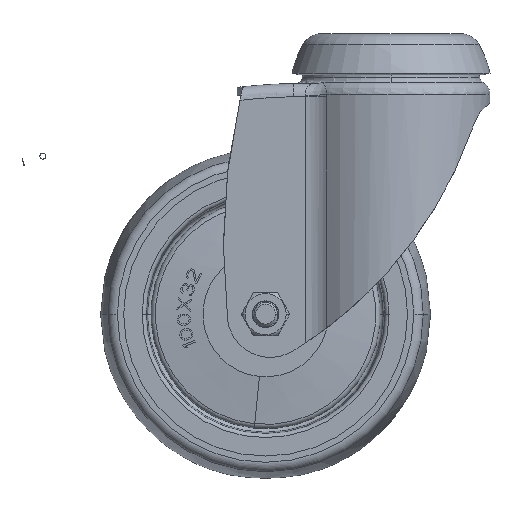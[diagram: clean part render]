
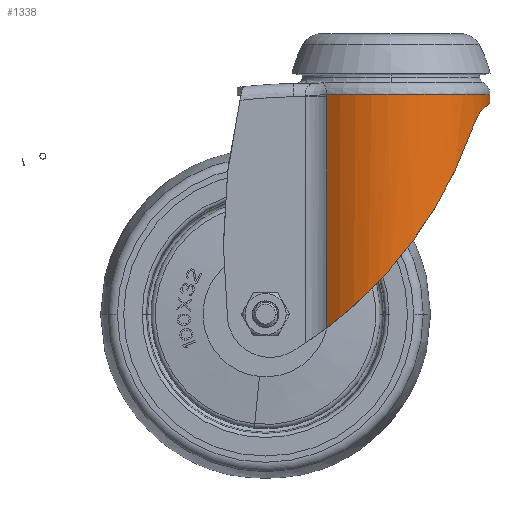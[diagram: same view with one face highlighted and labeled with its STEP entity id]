
A CAD part, left-side view. The second image highlights one B-rep face of the part: STEP entity #1338.
In plain terms, the highlighted cylindrical face has radius 30 mm (diameter 60 mm), a partial arc.
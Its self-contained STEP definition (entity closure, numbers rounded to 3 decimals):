
#1=CARTESIAN_POINT('',(-30.,-0.003,-62.485));
#2=CARTESIAN_POINT('',(-30.,-0.872,-61.489));
#3=CARTESIAN_POINT('',(-29.925,-2.58,-59.475));
#4=CARTESIAN_POINT('',(-29.605,-5.054,-56.368));
#5=CARTESIAN_POINT('',(-29.107,-7.387,-53.248));
#6=CARTESIAN_POINT('',(-28.464,-9.565,-50.149));
#7=CARTESIAN_POINT('',(-27.666,-11.675,-46.954));
#8=CARTESIAN_POINT('',(-26.67,-13.809,-43.505));
#9=CARTESIAN_POINT('',(-25.41,-16.022,-39.655));
#10=CARTESIAN_POINT('',(-23.788,-18.361,-35.223));
#11=CARTESIAN_POINT('',(-21.749,-20.749,-30.212));
#12=CARTESIAN_POINT('',(-19.282,-23.071,-24.723));
#13=CARTESIAN_POINT('',(-17.36,-24.498,-20.848));
#14=CARTESIAN_POINT('',(-16.314,-25.177,-18.858));
#16=CARTESIAN_POINT('',(-22.875,19.41,-80.578));
#17=CARTESIAN_POINT('',(-23.84,18.272,-79.717));
#18=CARTESIAN_POINT('',(-25.579,15.88,-77.847));
#19=CARTESIAN_POINT('',(-27.601,12.012,-74.585));
#20=CARTESIAN_POINT('',(-29.005,8.032,-70.942));
#21=CARTESIAN_POINT('',(-29.827,3.983,-66.904));
#22=CARTESIAN_POINT('',(-30.,1.317,-63.994));
#23=CARTESIAN_POINT('',(-30.,-0.003,
-62.485));
#25=DIRECTION('',(0.,0.,-1.));
#26=VECTOR('',#25,69.978);
#27=CARTESIAN_POINT('',(-22.875,19.41,-10.6));
#28=LINE('',#27,#26);
#29=CARTESIAN_POINT('',(-22.861,19.426,-9.869));
#30=CARTESIAN_POINT('',(-22.865,19.421,-9.991));
#31=CARTESIAN_POINT('',(-22.873,19.412,-10.234));
#32=CARTESIAN_POINT('',(-22.875,19.41,-10.478));
#33=CARTESIAN_POINT('',(-22.875,19.41,-10.6));
#35=CARTESIAN_POINT('',(0.,0.,-9.869));
#36=DIRECTION('',(0.,0.,1.));
#37=DIRECTION('',(-0.762,0.648,0.));
#38=AXIS2_PLACEMENT_3D('',#35,#36,#37);
#40=CARTESIAN_POINT('',(22.875,19.41,-10.6));
#41=CARTESIAN_POINT('',(22.875,19.41,-10.478));
#42=CARTESIAN_POINT('',(22.873,19.412,-10.234));
#43=CARTESIAN_POINT('',(22.865,19.421,-9.991));
#44=CARTESIAN_POINT('',(22.861,19.426,-9.869));
#46=DIRECTION('',(0.,0.,1.));
#47=VECTOR('',#46,69.978);
#48=CARTESIAN_POINT('',(22.875,19.41,-80.578));
#49=LINE('',#48,#47);
#50=CARTESIAN_POINT('',(30.,-0.002,-62.485));
#51=CARTESIAN_POINT('',(30.,1.319,-63.997));
#52=CARTESIAN_POINT('',(29.826,3.99,-66.911));
#53=CARTESIAN_POINT('',(29.003,8.037,-70.947));
#54=CARTESIAN_POINT('',(27.601,12.013,-74.585));
#55=CARTESIAN_POINT('',(25.581,15.877,-77.845));
#56=CARTESIAN_POINT('',(23.841,18.271,-79.716));
#57=CARTESIAN_POINT('',(22.875,19.41,-80.578));
#59=CARTESIAN_POINT('',(16.314,-25.177,-18.858));
#60=CARTESIAN_POINT('',(17.363,-24.497,-20.852));
#61=CARTESIAN_POINT('',(19.288,-23.066,-24.736));
#62=CARTESIAN_POINT('',(21.762,-20.737,-30.24));
#63=CARTESIAN_POINT('',(23.805,-18.34,-35.266));
#64=CARTESIAN_POINT('',(25.429,-15.993,-39.708));
#65=CARTESIAN_POINT('',(26.688,-13.774,-43.564));
#66=CARTESIAN_POINT('',(27.683,-11.637,-47.015));
#67=CARTESIAN_POINT('',(28.476,-9.528,-50.204));
#68=CARTESIAN_POINT('',(29.115,-7.356,-53.29));
#69=CARTESIAN_POINT('',(29.608,-5.033,-56.395));
#70=CARTESIAN_POINT('',(29.925,-2.569,-59.488));
#71=CARTESIAN_POINT('',(30.,-0.869,-61.494));
#72=CARTESIAN_POINT('',(30.,-0.002,-62.485));
#74=CARTESIAN_POINT('',(-16.314,-25.177,-18.858));
#75=CARTESIAN_POINT('',(-16.027,-25.362,-18.312));
#76=CARTESIAN_POINT('',(-15.352,-25.787,-17.303));
#77=CARTESIAN_POINT('',(-13.978,-26.562,-15.966));
#78=CARTESIAN_POINT('',(-12.411,-27.332,-14.934));
#79=CARTESIAN_POINT('',(-10.793,-28.008,-14.179));
#80=CARTESIAN_POINT('',(-9.157,-28.59,-13.611));
#81=CARTESIAN_POINT('',(-7.091,-29.18,-13.104));
#82=CARTESIAN_POINT('',(-4.812,-29.643,-12.751));
#83=CARTESIAN_POINT('',(-2.458,-29.931,-12.546));
#84=CARTESIAN_POINT('',(-0.046,-30.033,
-12.48));
#85=CARTESIAN_POINT('',(2.388,-29.938,-12.542));
#86=CARTESIAN_POINT('',(4.786,-29.648,-12.747));
#87=CARTESIAN_POINT('',(7.104,-29.178,-13.106));
#88=CARTESIAN_POINT('',(9.194,-28.578,-13.622));
#89=CARTESIAN_POINT('',(10.826,-27.995,-14.192));
#90=CARTESIAN_POINT('',(12.43,-27.323,-14.945));
#91=CARTESIAN_POINT('',(13.986,-26.558,-15.973));
#92=CARTESIAN_POINT('',(15.355,-25.785,-17.307));
#93=CARTESIAN_POINT('',(16.028,-25.362,-18.314));
#94=CARTESIAN_POINT('',(16.314,-25.177,-18.858));
#579=CARTESIAN_POINT('',(22.875,19.41,-80.578));
#591=CARTESIAN_POINT('',(22.861,19.426,-9.869));
#1138=CARTESIAN_POINT('',(-22.875,19.41,-80.578));
#1167=VERTEX_POINT('',#591);
#1170=VERTEX_POINT('',#40);
#1173=VERTEX_POINT('',#29);
#1174=VERTEX_POINT('',#33);
#1253=VERTEX_POINT('',#579);
#1254=VERTEX_POINT('',#1138);
#1303=VERTEX_POINT('',#1);
#1304=VERTEX_POINT('',#14);
#1305=VERTEX_POINT('',#94);
#1306=VERTEX_POINT('',#72);
#1311=CARTESIAN_POINT('',(0.,0.,6.88));
#1312=DIRECTION('',(0.,0.,-1.));
#1313=DIRECTION('',(1.,0.,0.));
#1314=AXIS2_PLACEMENT_3D('',#1311,#1312,#1313);
#1315=CYLINDRICAL_SURFACE('',#1314,30.);
#1317=ORIENTED_EDGE('',*,*,#1316,.F.);
#1319=ORIENTED_EDGE('',*,*,#1318,.F.);
#1321=ORIENTED_EDGE('',*,*,#1320,.F.);
#1323=ORIENTED_EDGE('',*,*,#1322,.F.);
#1325=ORIENTED_EDGE('',*,*,#1324,.T.);
#1327=ORIENTED_EDGE('',*,*,#1326,.F.);
#1329=ORIENTED_EDGE('',*,*,#1328,.F.);
#1331=ORIENTED_EDGE('',*,*,#1330,.F.);
#1333=ORIENTED_EDGE('',*,*,#1332,.F.);
#1335=ORIENTED_EDGE('',*,*,#1334,.F.);
#1336=EDGE_LOOP('',(#1317,#1319,#1321,#1323,#1325,#1327,#1329,#1331,#1333,
#1335));
#1337=FACE_OUTER_BOUND('',#1336,.F.);
#1338=ADVANCED_FACE('',(#1337),#1315,.T.);
#15=B_SPLINE_CURVE_WITH_KNOTS('',3,(#1,#2,#3,#4,#5,#6,#7,#8,#9,#10,#11,#12,#13,
#14),.UNSPECIFIED.,.F.,.F.,(4,1,1,1,1,1,1,1,1,1,1,4),(0.,0.091,
0.182,0.273,0.364,0.455,
0.545,0.636,0.727,0.818,
0.909,1.),.UNSPECIFIED.);
#24=B_SPLINE_CURVE_WITH_KNOTS('',3,(#16,#17,#18,#19,#20,#21,#22,#23),
.UNSPECIFIED.,.F.,.F.,(4,1,1,1,1,4),(0.,0.2,0.4,0.6,0.8,1.),
.UNSPECIFIED.);
#34=B_SPLINE_CURVE_WITH_KNOTS('',3,(#29,#30,#31,#32,#33),.UNSPECIFIED.,.F.,.F.,(
4,1,4),(0.,0.5,1.),.UNSPECIFIED.);
#39=CIRCLE('',#38,30.);
#45=B_SPLINE_CURVE_WITH_KNOTS('',3,(#40,#41,#42,#43,#44),.UNSPECIFIED.,.F.,.F.,(
4,1,4),(0.,0.5,1.),.UNSPECIFIED.);
#58=B_SPLINE_CURVE_WITH_KNOTS('',3,(#50,#51,#52,#53,#54,#55,#56,#57),
.UNSPECIFIED.,.F.,.F.,(4,1,1,1,1,4),(0.,0.2,0.4,0.6,0.8,1.),
.UNSPECIFIED.);
#73=B_SPLINE_CURVE_WITH_KNOTS('',3,(#59,#60,#61,#62,#63,#64,#65,#66,#67,#68,#69,
#70,#71,#72),.UNSPECIFIED.,.F.,.F.,(4,1,1,1,1,1,1,1,1,1,1,4),(0.,
0.091,0.182,0.273,0.364,
0.455,0.545,0.636,0.727,
0.818,0.909,1.),.UNSPECIFIED.);
#95=B_SPLINE_CURVE_WITH_KNOTS('',3,(#74,#75,#76,#77,#78,#79,#80,#81,#82,#83,#84,
#85,#86,#87,#88,#89,#90,#91,#92,#93,#94),.UNSPECIFIED.,.F.,.F.,(4,1,1,1,1,1,1,1,
1,1,1,1,1,1,1,1,1,1,4),(0.,0.056,0.111,
0.167,0.222,0.278,0.333,
0.389,0.444,0.5,0.556,0.611,
0.667,0.722,0.778,0.833,
0.889,0.944,1.),.UNSPECIFIED.);
#1316=EDGE_CURVE('',#1303,#1304,#15,.T.);
#1318=EDGE_CURVE('',#1254,#1303,#24,.T.);
#1320=EDGE_CURVE('',#1174,#1254,#28,.T.);
#1322=EDGE_CURVE('',#1173,#1174,#34,.T.);
#1324=EDGE_CURVE('',#1173,#1167,#39,.T.);
#1326=EDGE_CURVE('',#1170,#1167,#45,.T.);
#1328=EDGE_CURVE('',#1253,#1170,#49,.T.);
#1330=EDGE_CURVE('',#1306,#1253,#58,.T.);
#1332=EDGE_CURVE('',#1305,#1306,#73,.T.);
#1334=EDGE_CURVE('',#1304,#1305,#95,.T.);
